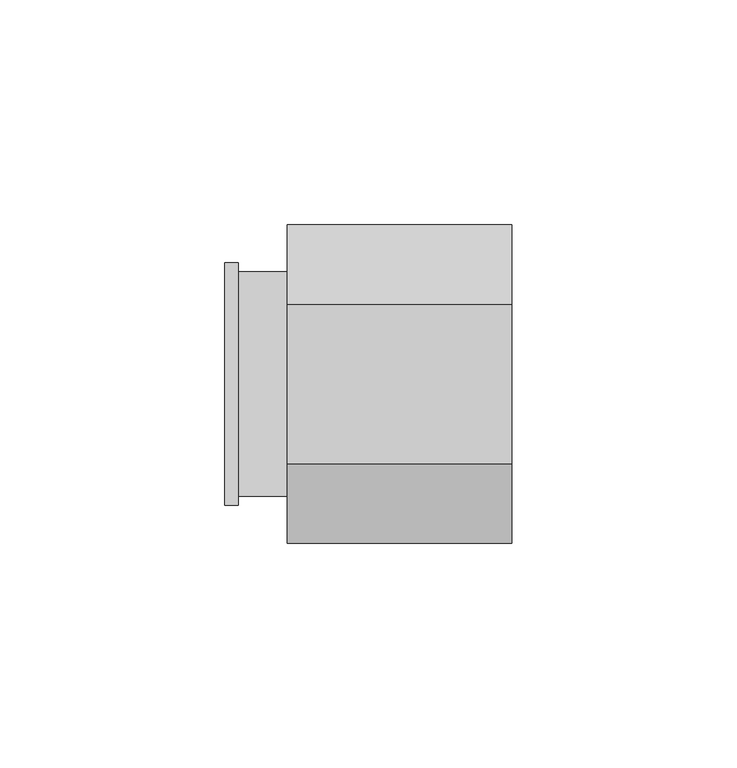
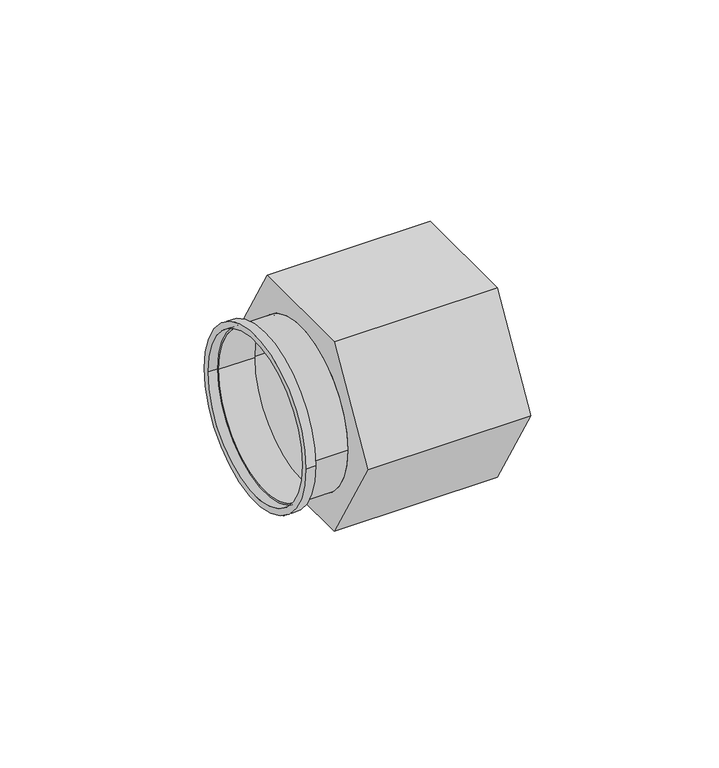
"""IFC4 building model written with IfcOpenShell, lengths in millimetres: pipe fitting geometry, БИР ПЕКС_КМП_Соединитель_Резьба_Наружная : Соединитель прямой с наружной резьбой_КМП."""

from ifc_helpers import new_model, si_unit, point, frame, origin, origin_2d, place, context, project, spatial, polyline, circle_curve, trimmed, segment, composite_curve, outline, extrude, source, transform, mapped, element, save


def pipe_fitting_cb1ef815(model_context):
    return source(origin(), model_context, "Body", "SweptSolid", [
        extrude(outline(polyline([(-17.75, -30.7439018), (-35.5, 0.0), (-17.75, 30.7439018), (17.75, 30.7439018), (35.5, 0.0), (17.75, -30.7439018), (-17.75, -30.7439018)]), holes=[composite_curve([segment(trimmed(circle_curve(origin_2d(), 25.0), [point((-25.0, 0.0))], [point((25.0, 0.0))], True, "CARTESIAN"), True, "CONTINUOUS"), segment(trimmed(circle_curve(origin_2d(), 25.0), [point((25.0, 0.0))], [point((-25.0, 0.0))], True, "CARTESIAN"), True, "CONTINUOUS")], self_intersect=False)]), frame((0.0, 0.0, 0.0), z_axis=(1.0, 0.0, 0.0), x_axis=(0.0, 1.0, 0.0)), (0.0, 0.0, 1.0), 50.0),
        extrude(outline(composite_curve([segment(trimmed(circle_curve(origin_2d(), 25.0), [point((-25.0, 0.0))], [point((25.0, 0.0))], False, "CARTESIAN"), True, "CONTINUOUS"), segment(trimmed(circle_curve(origin_2d(), 25.0), [point((25.0, 0.0))], [point((-25.0, 0.0))], False, "CARTESIAN"), True, "CONTINUOUS")], self_intersect=False), holes=[composite_curve([segment(trimmed(circle_curve(origin_2d(), 24.5), [point((-24.5, 0.0))], [point((24.5, 0.0))], True, "CARTESIAN"), True, "CONTINUOUS"), segment(trimmed(circle_curve(origin_2d(), 24.5), [point((24.5, 0.0))], [point((-24.5, 0.0))], True, "CARTESIAN"), True, "CONTINUOUS")], self_intersect=False)]), frame((-11.0, 0.0, 0.0), z_axis=(1.0, 0.0, 0.0), x_axis=(0.0, 1.0, 0.0)), (0.0, 0.0, 1.0), 11.0),
        extrude(outline(composite_curve([segment(trimmed(circle_curve(origin_2d(), 27.0), [point((-27.0, 0.0))], [point((27.0, 0.0))], False, "CARTESIAN"), True, "CONTINUOUS"), segment(trimmed(circle_curve(origin_2d(), 27.0), [point((27.0, 0.0))], [point((-27.0, 0.0))], False, "CARTESIAN"), True, "CONTINUOUS")], self_intersect=False), holes=[composite_curve([segment(trimmed(circle_curve(origin_2d(), 25.0), [point((-25.0, 0.0))], [point((25.0, 0.0))], True, "CARTESIAN"), True, "CONTINUOUS"), segment(trimmed(circle_curve(origin_2d(), 25.0), [point((25.0, 0.0))], [point((-25.0, 0.0))], True, "CARTESIAN"), True, "CONTINUOUS")], self_intersect=False)]), frame((-14.0, 0.0, 0.0), z_axis=(1.0, 0.0, 0.0), x_axis=(0.0, 1.0, 0.0)), (0.0, 0.0, 1.0), 3.0),
    ])


if __name__ == "__main__":
    model = new_model("IFC4")
    model_context = context("Model", 3, world=origin())
    ifc_project = project(units=[si_unit("LENGTHUNIT", "METRE", prefix="MILLI")], contexts=[model_context])
    site = spatial("IfcSite", under=ifc_project)
    building = spatial("IfcBuilding", under=site)
    placement = place(None, origin())
    pipe_fitting_shape = pipe_fitting_cb1ef815(model_context)
    element("IfcPipeFitting", 1, ObjectType="БИР ПЕКС_КМП_Соединитель_Резьба_Наружная : Соединитель прямой с наружной резьбой_КМП", at=placement, inside=building, context=model_context, shape_type="MappedRepresentation", body=[
        mapped(pipe_fitting_shape, transform((0.0, 0.0, 0.0), x_axis=(1.0, 0.0, 0.0), y_axis=(0.0, 1.0, 0.0), z_axis=(0.0, 0.0, 1.0))),
    ])
    save(model, "model.ifc")
